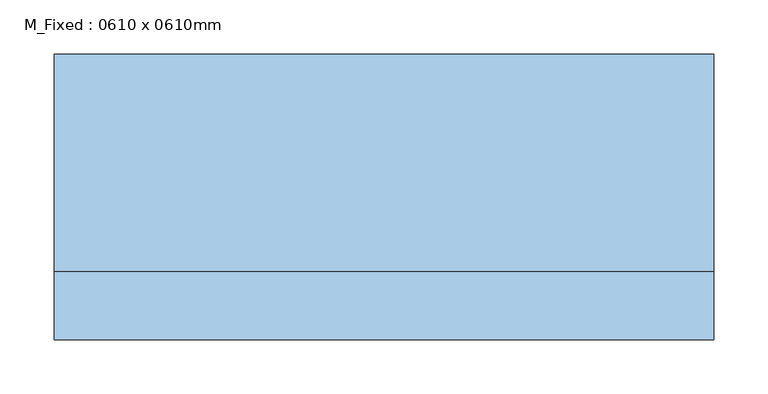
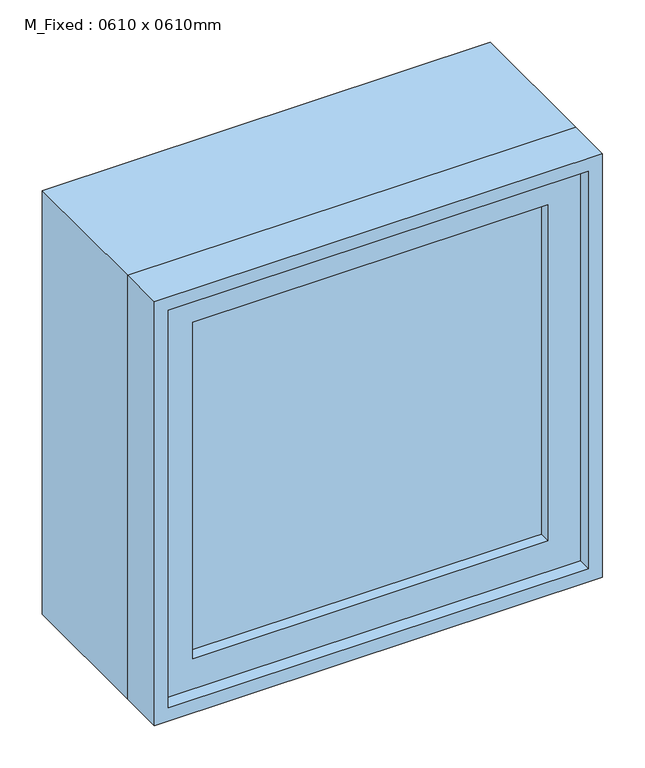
"""IFC4 building model written with IfcOpenShell, lengths in millimetres: window geometry, M_Fixed : 0610 x 0610mm."""

from ifc_helpers import new_model, si_unit, frame, origin, place, context, project, spatial, polyline, outline, extrude, source, transform, mapped, element, save


def m_fixed_0610_x_0610mm_b9847aa4(model_context):
    return source(origin(), model_context, "Body", "SweptSolid", [
        extrude(outline(polyline([(-242.0, -110.0), (-242.0, -98.0), (242.0, -98.0), (242.0, -110.0), (-242.0, -110.0)])), frame((0.0, 0.0, 978.0), z_axis=(0.0, 0.0, 1.0), x_axis=(1.0, 0.0, 0.0)), (0.0, 0.0, 1.0), 484.0),
        extrude(outline(polyline([(1506.0, -286.0), (934.0, -286.0), (934.0, 286.0), (1506.0, 286.0), (1506.0, -286.0)]), holes=[polyline([(1462.0, -242.0), (1462.0, 242.0), (978.0, 242.0), (978.0, -242.0), (1462.0, -242.0)])]), frame((0.0, -126.0, 0.0), z_axis=(0.0, 1.0, 0.0), x_axis=(0.0, 0.0, 1.0)), (0.0, 0.0, 1.0), 44.0),
        extrude(outline(polyline([(1525.0, -305.0), (915.0, -305.0), (915.0, 305.0), (1525.0, 305.0), (1525.0, -305.0)]), holes=[polyline([(1506.0, -286.0), (1506.0, 286.0), (934.0, 286.0), (934.0, -286.0), (1506.0, -286.0)])]), frame((0.0, -145.0, 0.0), z_axis=(0.0, 1.0, 0.0), x_axis=(0.0, 0.0, 1.0)), (0.0, 0.0, 1.0), 63.0),
        extrude(outline(polyline([(1525.0, -305.0), (915.0, -305.0), (915.0, 305.0), (1525.0, 305.0), (1525.0, -305.0)]), holes=[polyline([(1493.0, -273.0), (1493.0, 273.0), (947.0, 273.0), (947.0, -273.0), (1493.0, -273.0)])]), frame((0.0, -82.0, 0.0), z_axis=(0.0, 1.0, 0.0), x_axis=(0.0, 0.0, 1.0)), (0.0, 0.0, 1.0), 201.0),
    ])


if __name__ == "__main__":
    model = new_model("IFC4")
    model_context = context("Model", 3, world=origin())
    ifc_project = project(units=[si_unit("LENGTHUNIT", "METRE", prefix="MILLI")], contexts=[model_context])
    site = spatial("IfcSite", under=ifc_project)
    building = spatial("IfcBuilding", under=site)
    placement = place(None, origin())
    m_fixed_0610_x_0610mm_shape = m_fixed_0610_x_0610mm_b9847aa4(model_context)
    element("IfcWindow", 1, ObjectType="M_Fixed : 0610 x 0610mm", at=placement, inside=building, context=model_context, shape_type="MappedRepresentation", body=[
        mapped(m_fixed_0610_x_0610mm_shape, transform((0.0, 0.0, 0.0), x_axis=(1.0, 0.0, 0.0), y_axis=(0.0, 1.0, 0.0), z_axis=(0.0, 0.0, 1.0))),
    ])
    save(model, "model.ifc")
